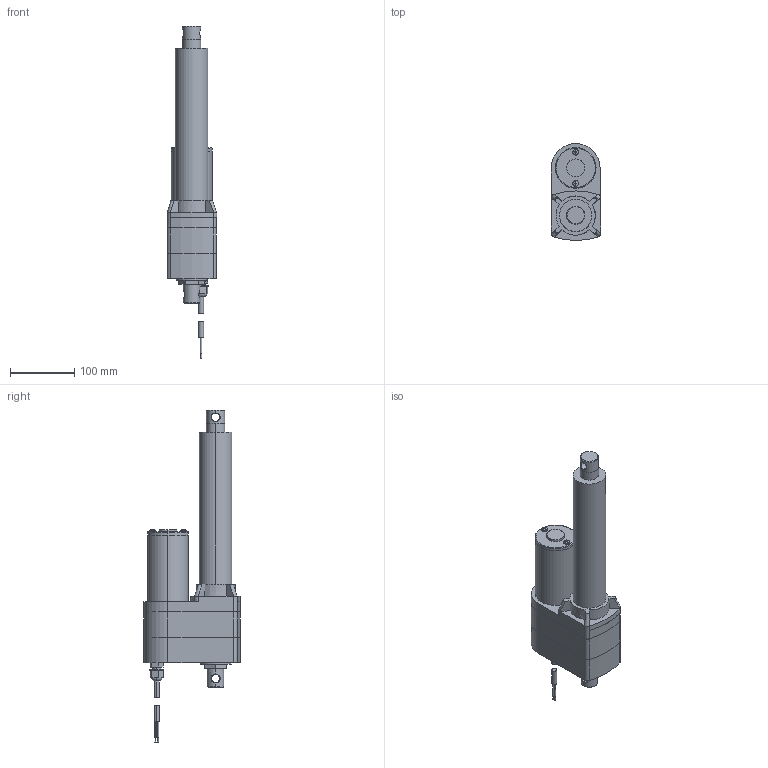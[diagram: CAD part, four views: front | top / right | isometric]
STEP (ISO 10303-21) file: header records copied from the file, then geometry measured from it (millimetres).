
FILE_DESCRIPTION (( 'STEP AP203' ), '1' );
FILE_NAME ('LA5_ACME_8.step', '2021-02-24T15:20:56', ( '' ), ( '' ), 'SwSTEP 2.0', 'SolidWorks 2017', '' );
FILE_SCHEMA (( 'CONFIG_CONTROL_DESIGN' ));
Length unit declared in the file: millimetre
Products named in the file (1): LA5_ACME_8
Bounding box: 77.22 x 151.29 x 518.37 mm (x, y, z)
Volume: 2019682.7 mm3; surface area: 200518.1 mm2
Topology: 14 solids, 14 shells, 315 faces, 680 edges, 422 vertices
Faces by surface type: plane 154, cylinder 101, cone 24, bspline 22, torus 10, sphere 4
Entity records: 10570 total; most frequent: CARTESIAN_POINT 3606, DIRECTION 1477, ORIENTED_EDGE 1360, EDGE_CURVE 680, AXIS2_PLACEMENT_3D 573, VERTEX_POINT 422, EDGE_LOOP 352, VECTOR 331
